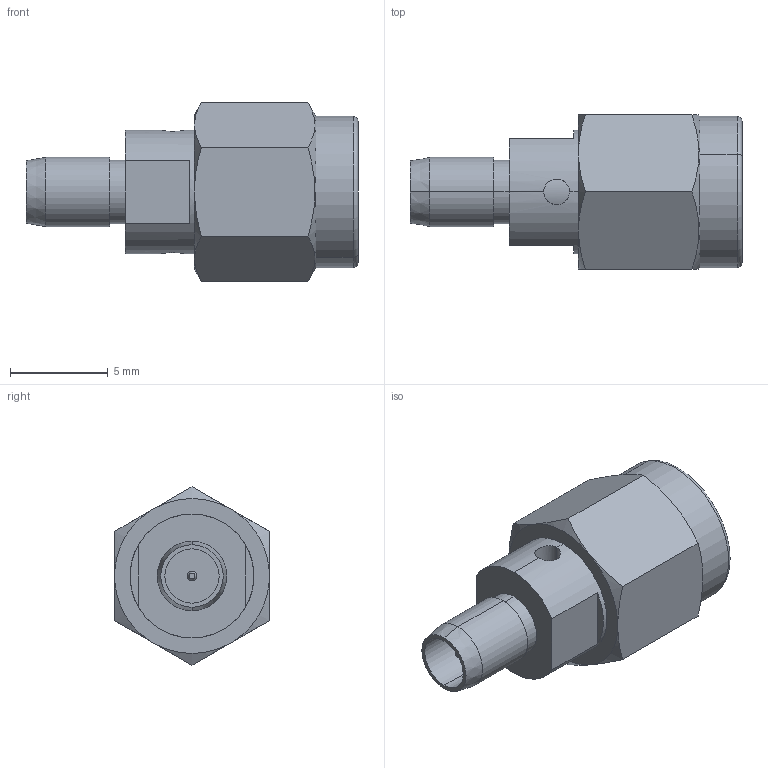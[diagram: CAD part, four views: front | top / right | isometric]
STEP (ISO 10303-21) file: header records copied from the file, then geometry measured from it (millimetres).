
FILE_DESCRIPTION (( 'STEP AP214' ), '1' );
FILE_NAME ('SF1114-6007.STEP', '2017-03-03T19:45:37', ( '' ), ( '' ), 'SwSTEP 2.0', 'SolidWorks 2016', '' );
FILE_SCHEMA (( 'AUTOMOTIVE_DESIGN' ));
Length unit declared in the file: inch
Products named in the file (1): SF1114-6007
Bounding box: 17.02 x 7.92 x 9.15 mm (x, y, z)
Volume: 484.2 mm3; surface area: 550.4 mm2
Topology: 1 solids, 1 shells, 63 faces, 142 edges, 88 vertices
Faces by surface type: cylinder 24, plane 19, cone 18, torus 2
Entity records: 2766 total; most frequent: CARTESIAN_POINT 542, DIRECTION 300, ORIENTED_EDGE 284, EDGE_CURVE 142, AXIS2_PLACEMENT_3D 122, VERTEX_POINT 88, EDGE_LOOP 70, UNCERTAINTY_MEASURE_WITH_UNIT 63
